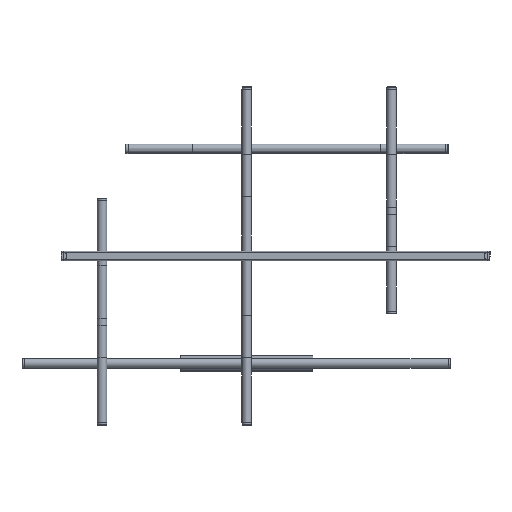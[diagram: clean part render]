
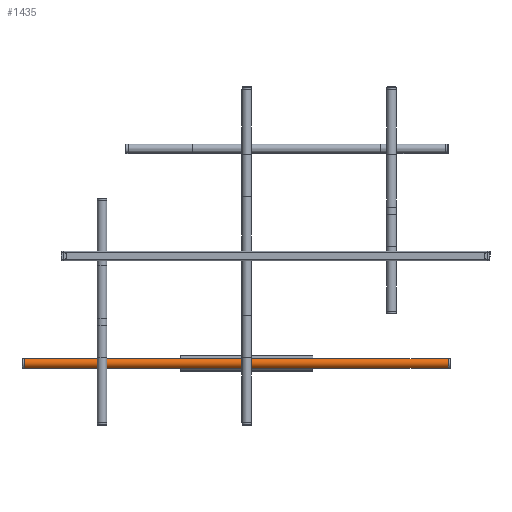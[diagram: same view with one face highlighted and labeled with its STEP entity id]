
A CAD part, top view. The second image highlights one B-rep face of the part: STEP entity #1435.
In plain terms, the highlighted free-form (B-spline) face has degree [1, 2] with [2, 5] control points.
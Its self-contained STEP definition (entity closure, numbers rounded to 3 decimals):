
#1435=ADVANCED_FACE('',(#3057),#23678,.T.);
#3057=FACE_OUTER_BOUND('',#4679,.T.);
#4679=EDGE_LOOP('',(#10101,#10102,#10103,#10104));
#10101=ORIENTED_EDGE('',*,*,#15148,.F.);
#10102=ORIENTED_EDGE('',*,*,#15147,.F.);
#10103=ORIENTED_EDGE('',*,*,#15146,.T.);
#10104=ORIENTED_EDGE('',*,*,#15121,.T.);
#15121=EDGE_CURVE('',#21552,#21553,#19744,.T.);
#15146=EDGE_CURVE('',#21570,#21552,#17654,.T.);
#15147=EDGE_CURVE('',#21570,#21571,#19757,.T.);
#15148=EDGE_CURVE('',#21571,#21553,#17655,.T.);
#17654=B_SPLINE_CURVE_WITH_KNOTS('',1,(#42165,#42166),.UNSPECIFIED.,.F.,
 .F.,(2,2),(-1023.816,0.),.UNSPECIFIED.);
#17655=B_SPLINE_CURVE_WITH_KNOTS('',1,(#42172,#42173),.UNSPECIFIED.,.F.,
 .F.,(2,2),(-1023.816,0.),.UNSPECIFIED.);
#19744=(
BOUNDED_CURVE()
B_SPLINE_CURVE(2,(#42094,#42095,#42096,#42097,#42098),.UNSPECIFIED.,.F.,
 .F.)
B_SPLINE_CURVE_WITH_KNOTS((3,2,3),(10.956,12.526,14.097),
 .UNSPECIFIED.)
CURVE()
GEOMETRIC_REPRESENTATION_ITEM()
RATIONAL_B_SPLINE_CURVE((1.,0.707,1.,0.707,1.))
REPRESENTATION_ITEM('')
);
#19757=(
BOUNDED_CURVE()
B_SPLINE_CURVE(2,(#42167,#42168,#42169,#42170,#42171),.UNSPECIFIED.,.F.,
 .F.)
B_SPLINE_CURVE_WITH_KNOTS((3,2,3),(10.956,12.526,14.097),
 .UNSPECIFIED.)
CURVE()
GEOMETRIC_REPRESENTATION_ITEM()
RATIONAL_B_SPLINE_CURVE((1.,0.707,1.,0.707,1.))
REPRESENTATION_ITEM('')
);
#21552=VERTEX_POINT('',#42043);
#21553=VERTEX_POINT('',#42044);
#21570=VERTEX_POINT('',#42061);
#21571=VERTEX_POINT('',#42062);
#23678=(
BOUNDED_SURFACE()
B_SPLINE_SURFACE(1,2,((#41977,#41978,#41979,#41980,#41981),(#41982,#41983,
#41984,#41985,#41986)),.UNSPECIFIED.,.F.,.F.,.F.)
B_SPLINE_SURFACE_WITH_KNOTS((2,2),(3,2,3),(0.,1023.816),(-14.097,
-12.526,-10.956),.UNSPECIFIED.)
GEOMETRIC_REPRESENTATION_ITEM()
RATIONAL_B_SPLINE_SURFACE(((1.,0.707,1.,0.707,1.),
(1.,0.707,1.,0.707,1.)))
REPRESENTATION_ITEM('')
SURFACE()
);
#41977=CARTESIAN_POINT('',(-537.,-271.,-78.719));
#41978=CARTESIAN_POINT('',(-537.,-271.,-67.219));
#41979=CARTESIAN_POINT('',(-537.,-259.5,-67.219));
#41980=CARTESIAN_POINT('',(-537.,-248.,-67.219));
#41981=CARTESIAN_POINT('',(-537.,-248.,-78.719));
#41982=CARTESIAN_POINT('',(486.816,-271.,-78.719));
#41983=CARTESIAN_POINT('',(486.816,-271.,-67.219));
#41984=CARTESIAN_POINT('',(486.816,-259.5,-67.219));
#41985=CARTESIAN_POINT('',(486.816,-248.,-67.219));
#41986=CARTESIAN_POINT('',(486.816,-248.,-78.719));
#42043=CARTESIAN_POINT('',(-537.,-248.,-78.719));
#42044=CARTESIAN_POINT('',(-537.,-271.,-78.719));
#42061=CARTESIAN_POINT('',(486.816,-248.,-78.719));
#42062=CARTESIAN_POINT('',(486.816,-271.,-78.719));
#42094=CARTESIAN_POINT('',(-537.,-248.,-78.719));
#42095=CARTESIAN_POINT('',(-537.,-248.,-67.219));
#42096=CARTESIAN_POINT('',(-537.,-259.5,-67.219));
#42097=CARTESIAN_POINT('',(-537.,-271.,-67.219));
#42098=CARTESIAN_POINT('',(-537.,-271.,-78.719));
#42165=CARTESIAN_POINT('',(486.816,-248.,-78.719));
#42166=CARTESIAN_POINT('',(-537.,-248.,-78.719));
#42167=CARTESIAN_POINT('',(486.816,-248.,-78.719));
#42168=CARTESIAN_POINT('',(486.816,-248.,-67.219));
#42169=CARTESIAN_POINT('',(486.816,-259.5,-67.219));
#42170=CARTESIAN_POINT('',(486.816,-271.,-67.219));
#42171=CARTESIAN_POINT('',(486.816,-271.,-78.719));
#42172=CARTESIAN_POINT('',(486.816,-271.,-78.719));
#42173=CARTESIAN_POINT('',(-537.,-271.,-78.719));
